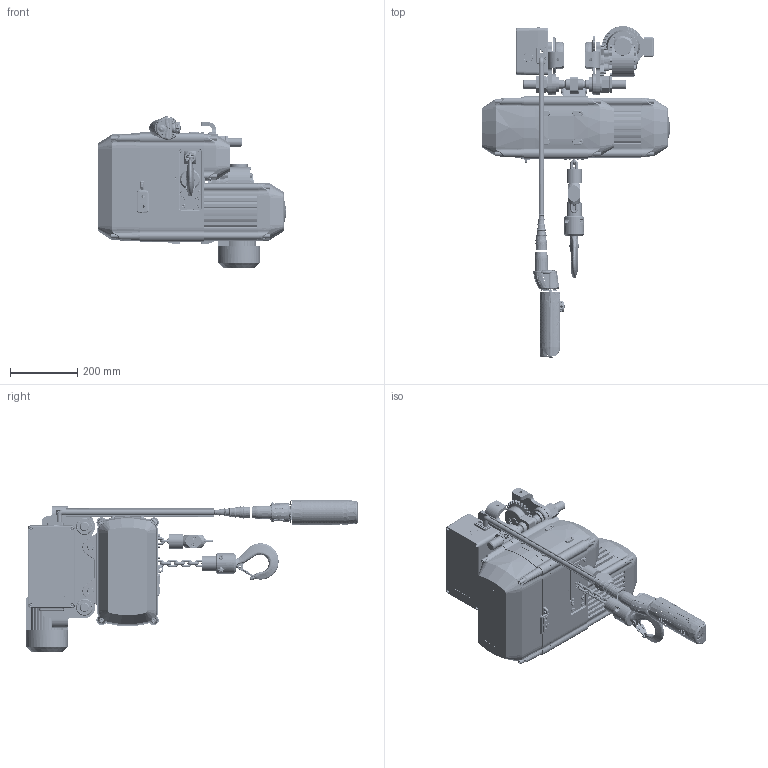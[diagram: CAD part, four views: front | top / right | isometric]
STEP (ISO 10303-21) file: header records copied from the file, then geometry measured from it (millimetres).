
FILE_DESCRIPTION (( 'STEP AP203' ), '1' );
FILE_NAME ('06700661.STEP', '2019-10-09T14:00:54', ( '' ), ( '' ), 'SwSTEP 2.0', 'SolidWorks 2015', '' );
FILE_SCHEMA (( 'CONFIG_CONTROL_DESIGN' ));
Products named in the file (1): 06700661
Bounding box: 557.33 x 985.41 x 450.85 mm (x, y, z)
Surface area: 3805749.9 mm2 (no closed solid volume)
Topology: 0 solids, 804 shells, 16754 faces, 43753 edges, 28361 vertices
Faces by surface type: plane 5960, cylinder 4456, bspline 3472, torus 1182, cone 1096, sphere 588
Full cylindrical faces by diameter (mm): 1.2 x6, 2 x16, 3 x10, 3.28 x4, 3.5 x4, 3.57 x1, 3.8 x24, 4 x7, 4.2 x7, 4.3 x1, 4.5 x1, 4.8 x1, 4.9 x4, 4.917 x2, 5 x31, 5.2 x8, 5.5 x3, 6 x28, 6.2 x1, 6.4 x22, 6.5 x4, 6.6 x17, 6.647 x2, 6.65 x2, 6.8 x20, 7.1 x30, 7.5 x6, 8 x45, 8.2 x2, 8.3 x4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
Entity records: 909198 total; most frequent: CARTESIAN_POINT 533869, ORIENTED_EDGE 80093, DIRECTION 70186, EDGE_CURVE 41761, VERTEX_POINT 27878, AXIS2_PLACEMENT_3D 25735, EDGE_LOOP 19257, LINE 18716
